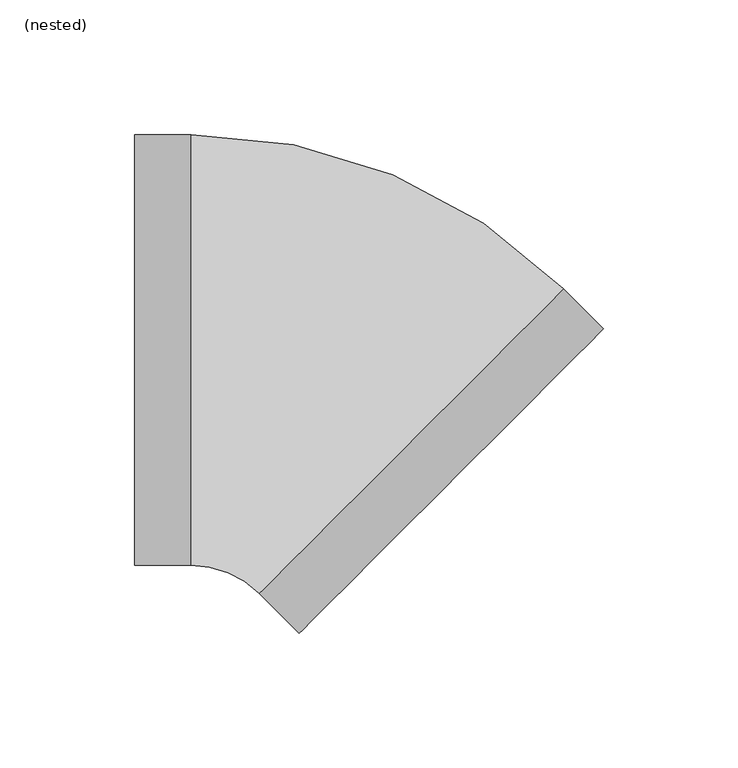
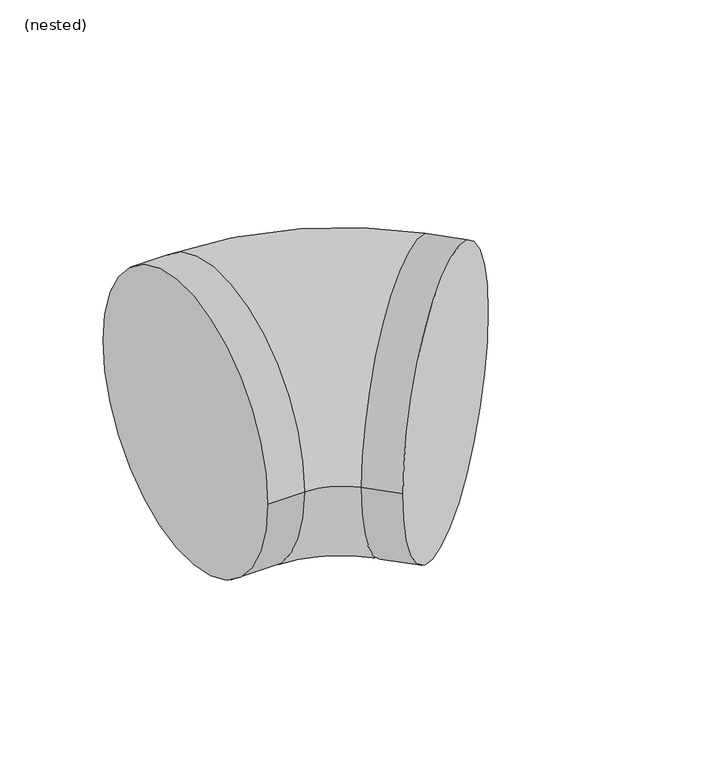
"""IFC4 building model written with IfcOpenShell, lengths in millimetres: pipe fitting geometry, NLRS_52_PIF_UN_PE bocht_SH_geb : (nested)."""

from ifc_helpers import new_model, si_unit, point, frame, origin, place, context, project, spatial, circle_curve, ellipse_curve, trimmed, source, transform, mapped, element, save
from ifc_brep_helpers import plane_surface, cylinder_surface, revolved_surface, advanced_brep


def nested_2d8ea072(model_context):
    return source(origin(), model_context, "Body", "AdvancedBrep", [
        advanced_brep(
        [(-22.627417, -90.509668, 0.0), (90.509668, 22.627417, 0.0), (-48.0, 80.0, 0.0), (-48.0, -80.0, 0.0), (-69.0, 80.0, 0.0), (-69.0, -80.0, 0.0), (105.3589104, 7.7781746, 0.0), (-7.7781746, -105.3589104, 0.0)],
        [
            (0, 1, circle_curve(frame((33.9411255, -33.9411255, 0.0), z_axis=(-0.7071067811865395, 0.7071067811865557, 0.0), x_axis=(-0.7071067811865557, -0.7071067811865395, 0.0)), 80.0)),
            (1, 2, circle_curve(frame((-48.0, -115.882251, 0.0), z_axis=(0.0, 0.0, 1.0), x_axis=(0.0, 1.0, 0.0)), 195.882251)),
            (2, 3, circle_curve(frame((-48.0, 0.0, 0.0), z_axis=(1.0, 0.0, 0.0), x_axis=(0.0, -1.0, 0.0)), 80.0)),
            (3, 0, circle_curve(frame((-48.0, -115.882251, 0.0), z_axis=(0.0, 0.0, -1.0), x_axis=(0.0, 1.0, 0.0)), 35.882251)),
            (1, 0, circle_curve(frame((33.9411255, -33.9411255, 0.0), z_axis=(-0.7071067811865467, 0.7071067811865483, 0.0), x_axis=(-0.7071067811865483, -0.7071067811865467, 0.0)), 80.0)),
            (3, 2, circle_curve(frame((-48.0, 0.0, 0.0), z_axis=(1.0, 0.0, 0.0), x_axis=(0.0, -1.0, 0.0)), 80.0)),
            (4, 5, circle_curve(frame((-69.0, 0.0, 0.0), z_axis=(-1.0, 0.0, 0.0), x_axis=(0.0, -1.0, 0.0)), 80.0)),
            (5, 4, circle_curve(frame((-69.0, 0.0, 0.0), z_axis=(-1.0, 0.0, 0.0), x_axis=(0.0, -1.0, 0.0)), 80.0)),
            (5, 3),
            (2, 4),
            (6, 7, circle_curve(frame((48.7903679, -48.7903679, 0.0), z_axis=(0.707106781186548, -0.707106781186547, 0.0), x_axis=(-0.707106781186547, -0.707106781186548, 0.0)), 80.0)),
            (7, 6, circle_curve(frame((48.7903679, -48.7903679, 0.0), z_axis=(0.707106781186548, -0.707106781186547, 0.0), x_axis=(-0.707106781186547, -0.707106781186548, 0.0)), 80.0)),
            (0, 7),
            (6, 1),
        ],
        [
            revolved_surface(trimmed(ellipse_curve(frame((-48.0, 0.0, 0.0), z_axis=(1.0, 0.0, 0.0), x_axis=(0.0, -1.0, 0.0)), 80.0, 80.0), [point((-48.0, 80.0, 0.0))], [point((-48.0, -80.0, 0.0))], True, "CARTESIAN"), (-48.0, -115.882251, 0.0), (0.0, 0.0, 1.0)),
            revolved_surface(trimmed(ellipse_curve(frame((-48.0, 0.0, 0.0), z_axis=(1.0, 0.0, 0.0), x_axis=(0.0, -1.0, 0.0)), 80.0, 80.0), [point((-48.0, -80.0, 0.0))], [point((-48.0, 80.0, 0.0))], True, "CARTESIAN"), (-48.0, -115.882251, 0.0), (0.0, 0.0, 1.0)),
            plane_surface(frame((-69.0, 0.0, 0.0), z_axis=(-1.0, 0.0, 0.0), x_axis=(0.0, 0.0, 1.0))),
            cylinder_surface(frame((-69.0, 0.0, 0.0), z_axis=(-1.0, 0.0, 0.0), x_axis=(0.0, -1.0, 0.0)), 80.0),
            plane_surface(frame((48.7903679, -48.7903679, 0.0), z_axis=(0.7071067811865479, -0.7071067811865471, 0.0), x_axis=(0.0, 0.0, 1.0))),
            cylinder_surface(frame((33.9411255, -33.9411255, 0.0), z_axis=(-0.707106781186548, 0.707106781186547, 0.0), x_axis=(-0.707106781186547, -0.707106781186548, 0.0)), 80.0),
        ],
        [
            (0, [[1, 2, 3, 4]]),
            (1, [[5, -4, 6, -2]]),
            (2, [[7, 8]]),
            (3, [[9, -3, 10, -8]]),
            (3, [[-10, -6, -9, -7]]),
            (4, [[11, 12]]),
            (5, [[13, -11, 14, -1]]),
            (5, [[-14, -12, -13, -5]]),
        ],
    ),
    ])


if __name__ == "__main__":
    model = new_model("IFC4")
    model_context = context("Model", 3, world=origin())
    ifc_project = project(units=[si_unit("LENGTHUNIT", "METRE", prefix="MILLI")], contexts=[model_context])
    site = spatial("IfcSite", under=ifc_project)
    building = spatial("IfcBuilding", under=site)
    placement = place(None, origin())
    nested_shape = nested_2d8ea072(model_context)
    element("IfcPipeFitting", 1, ObjectType="NLRS_52_PIF_UN_PE bocht_SH_geb : (nested)", at=placement, inside=building, context=model_context, shape_type="MappedRepresentation", body=[
        mapped(nested_shape, transform((0.0, 0.0, 0.0), x_axis=(1.0, 0.0, 0.0), y_axis=(0.0, 1.0, 0.0), z_axis=(0.0, 0.0, 1.0))),
    ])
    save(model, "model.ifc")
